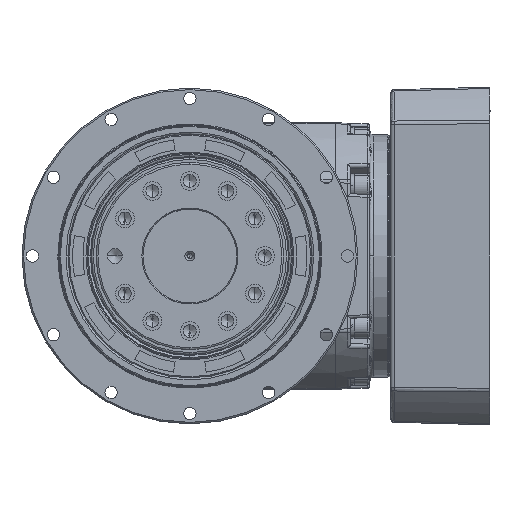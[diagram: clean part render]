
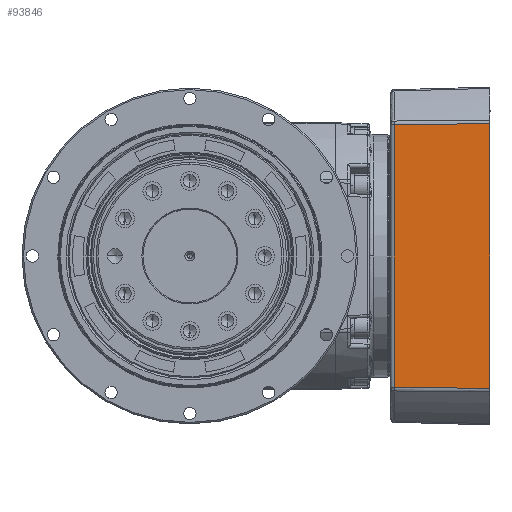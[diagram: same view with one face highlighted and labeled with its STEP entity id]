
A CAD part, left-side view. The second image highlights one B-rep face of the part: STEP entity #93846.
In plain terms, the highlighted planar face has unit normal (-1, 0.026, 0) as drawn and (0, 1, 0.026) by its records, which use the part's own axes.
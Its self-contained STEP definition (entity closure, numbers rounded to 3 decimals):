
#4179 = EDGE_LOOP ( 'NONE', ( #75061, #9058, #18187, #101070 ) ) ;
#7903 = VERTEX_POINT ( 'NONE', #119258 ) ;
#8136 = EDGE_CURVE ( 'NONE', #7903, #108423, #121629, .T. ) ;
#9058 = ORIENTED_EDGE ( 'NONE', *, *, #48838, .T. ) ;
#9109 = LINE ( 'NONE', #79054, #114394 ) ;
#9213 = DIRECTION ( 'NONE',  ( 0.009, -0.026, 1. ) ) ;
#15188 = CARTESIAN_POINT ( 'NONE',  ( -71.589, 90., 10. ) ) ;
#18187 = ORIENTED_EDGE ( 'NONE', *, *, #87310, .T. ) ;
#24169 = CARTESIAN_POINT ( 'NONE',  ( -70.059, 88.663, 61.052 ) ) ;
#47027 = AXIS2_PLACEMENT_3D ( 'NONE', #50479, #124131, #61045 ) ;
#48838 = EDGE_CURVE ( 'NONE', #108423, #117028, #79047, .T. ) ;
#50479 = CARTESIAN_POINT ( 'NONE',  ( -71.589, 90., 10. ) ) ;
#59036 = VECTOR ( 'NONE', #103978, 1000. ) ;
#61045 = DIRECTION ( 'NONE',  ( 0., -0.026, 1. ) ) ;
#65224 = VECTOR ( 'NONE', #9213, 1000. ) ;
#68507 = DIRECTION ( 'NONE',  ( -1., 0., 0. ) ) ;
#68550 = LINE ( 'NONE', #82761, #65224 ) ;
#74831 = CARTESIAN_POINT ( 'NONE',  ( 70.534, 90., 10. ) ) ;
#75061 = ORIENTED_EDGE ( 'NONE', *, *, #8136, .T. ) ;
#75334 = EDGE_CURVE ( 'NONE', #7903, #111668, #9109, .T. ) ;
#75733 = VECTOR ( 'NONE', #88750, 1000. ) ;
#79047 = LINE ( 'NONE', #15188, #75733 ) ;
#79054 = CARTESIAN_POINT ( 'NONE',  ( -71.589, 88.663, 61.052 ) ) ;
#82761 = CARTESIAN_POINT ( 'NONE',  ( -70.534, 90., 10. ) ) ;
#87310 = EDGE_CURVE ( 'NONE', #117028, #111668, #68550, .T. ) ;
#88750 = DIRECTION ( 'NONE',  ( -1., 0., 0. ) ) ;
#91852 = PLANE ( 'NONE',  #47027 ) ;
#93846 = ADVANCED_FACE ( 'NONE', ( #99284 ), #91852, .T. ) ;
#99284 = FACE_OUTER_BOUND ( 'NONE', #4179, .T. ) ;
#101070 = ORIENTED_EDGE ( 'NONE', *, *, #75334, .F. ) ;
#103978 = DIRECTION ( 'NONE',  ( 0.009, 0.026, -1. ) ) ;
#104881 = CARTESIAN_POINT ( 'NONE',  ( 70.059, 88.663, 61.052 ) ) ;
#108423 = VERTEX_POINT ( 'NONE', #74831 ) ;
#111668 = VERTEX_POINT ( 'NONE', #24169 ) ;
#114394 = VECTOR ( 'NONE', #68507, 1000. ) ;
#117028 = VERTEX_POINT ( 'NONE', #120251 ) ;
#119258 = CARTESIAN_POINT ( 'NONE',  ( 70.059, 88.663, 61.052 ) ) ;
#120251 = CARTESIAN_POINT ( 'NONE',  ( -70.534, 90., 10. ) ) ;
#121629 = LINE ( 'NONE', #104881, #59036 ) ;
#124131 = DIRECTION ( 'NONE',  ( 0., 1., 0.026 ) ) ;
